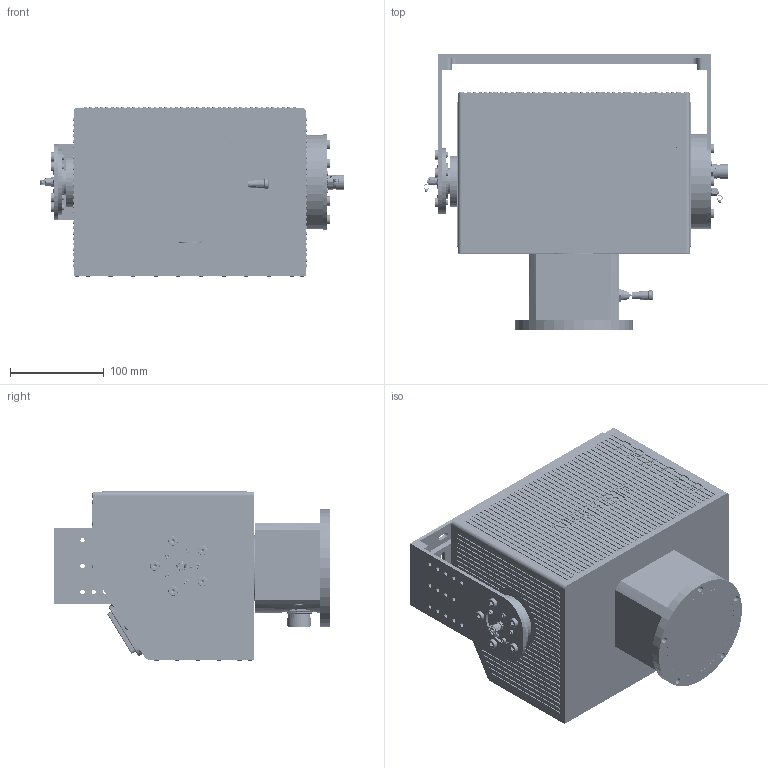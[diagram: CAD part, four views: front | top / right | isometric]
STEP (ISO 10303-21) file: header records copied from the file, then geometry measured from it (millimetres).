
FILE_DESCRIPTION (( 'STEP AP214' ), '1' );
FILE_NAME ('tracer_katalog_step.STEP', '2026-04-26T11:33:06', ( '' ), ( '' ), 'SwSTEP 2.0', 'SolidWorks 2020', '' );
FILE_SCHEMA (( 'AUTOMOTIVE_DESIGN' ));
Length unit declared in the file: millimetre
Products named in the file (1): tracer_katalog_step
Bounding box: 324.24 x 293 x 181.15 mm (x, y, z)
Surface area: 774049.2 mm2 (no closed solid volume)
Topology: 0 solids, 133 shells, 8608 faces, 21543 edges, 13666 vertices
Faces by surface type: cylinder 3585, plane 3500, cone 955, bspline 557, torus 11
Entity records: 448108 total; most frequent: CARTESIAN_POINT 147206, DIRECTION 43157, ORIENTED_EDGE 42646, EDGE_CURVE 21329, AXIS2_PLACEMENT_3D 15962, VERTEX_POINT 13666, LINE 11233, VECTOR 11233
